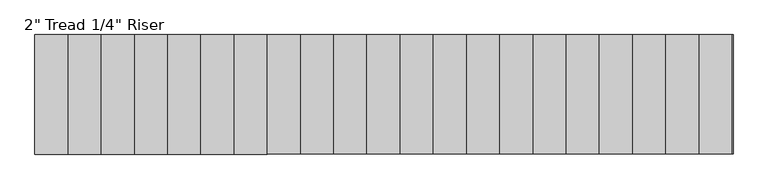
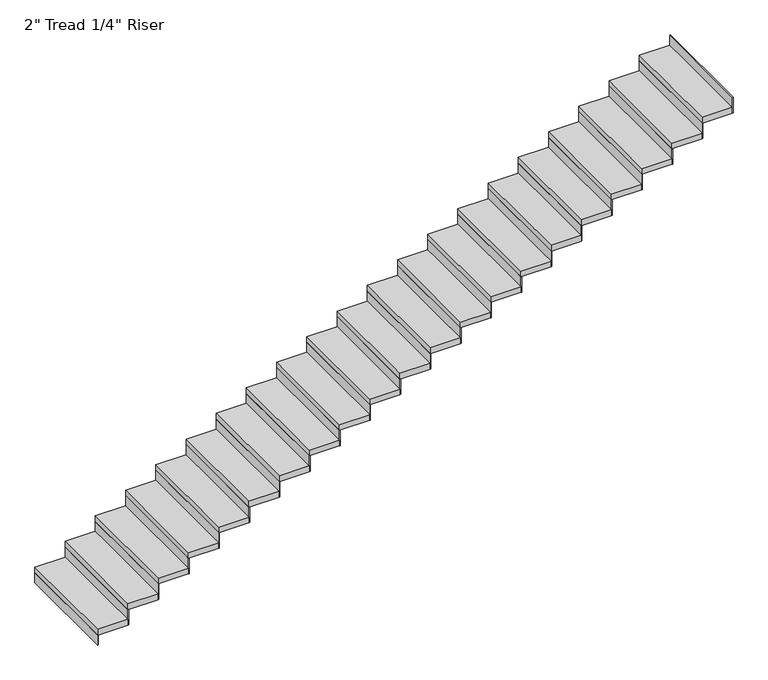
"""IFC4 building model written with IfcOpenShell, lengths in millimetres: stair flight geometry."""

from ifc_helpers import new_model, si_unit, frame, origin, origin_with_axes, place, context, project, spatial, polyline, outline, extrude, source, transform, mapped, element, save


def stair_flight_92419e0c(model_context):
    return source(origin(), model_context, "Body", "SweptSolid", [
        extrude(outline(polyline([(12112.6666841, 50604.9186802), (12106.3166841, 50604.9186802), (12106.3166841, 51519.3186802), (12112.6666841, 51519.3186802), (12112.6666841, 50604.9186802)])), origin_with_axes(), (0.0, 0.0, 1.0), 87.7454545),
        extrude(outline(polyline([(12360.3166841, 51519.3186802), (12360.3166841, 50604.9186802), (12106.3166841, 50604.9186802), (12106.3166841, 51519.3186802), (12360.3166841, 51519.3186802)])), frame((0.0, 0.0, 87.7454545), z_axis=(0.0, 0.0, 1.0), x_axis=(1.0, 0.0, 0.0)), (0.0, 0.0, 1.0), 50.8),
        extrude(outline(polyline([(12366.6666841, 50604.9186802), (12360.3166841, 50604.9186802), (12360.3166841, 51519.3186802), (12366.6666841, 51519.3186802), (12366.6666841, 50604.9186802)])), frame((0.0, 0.0, 87.7454545), z_axis=(0.0, 0.0, 1.0), x_axis=(1.0, 0.0, 0.0)), (0.0, 0.0, 1.0), 138.5454545),
        extrude(outline(polyline([(12614.3166841, 51519.3186802), (12614.3166841, 50604.9186802), (12360.3166841, 50604.9186802), (12360.3166841, 51519.3186802), (12614.3166841, 51519.3186802)])), frame((0.0, 0.0, 226.2909091), z_axis=(0.0, 0.0, 1.0), x_axis=(1.0, 0.0, 0.0)), (0.0, 0.0, 1.0), 50.8),
        extrude(outline(polyline([(12620.6666841, 50604.9186802), (12614.3166841, 50604.9186802), (12614.3166841, 51519.3186802), (12620.6666841, 51519.3186802), (12620.6666841, 50604.9186802)])), frame((0.0, 0.0, 226.2909091), z_axis=(0.0, 0.0, 1.0), x_axis=(1.0, 0.0, 0.0)), (0.0, 0.0, 1.0), 138.5454545),
        extrude(outline(polyline([(12868.3166841, 51519.3186802), (12868.3166841, 50604.9186802), (12614.3166841, 50604.9186802), (12614.3166841, 51519.3186802), (12868.3166841, 51519.3186802)])), frame((0.0, 0.0, 364.8363636), z_axis=(0.0, 0.0, 1.0), x_axis=(1.0, 0.0, 0.0)), (0.0, 0.0, 1.0), 50.8),
        extrude(outline(polyline([(12874.6666841, 50604.9186802), (12868.3166841, 50604.9186802), (12868.3166841, 51519.3186802), (12874.6666841, 51519.3186802), (12874.6666841, 50604.9186802)])), frame((0.0, 0.0, 364.8363636), z_axis=(0.0, 0.0, 1.0), x_axis=(1.0, 0.0, 0.0)), (0.0, 0.0, 1.0), 138.5454545),
        extrude(outline(polyline([(13122.3166841, 51519.3186802), (13122.3166841, 50604.9186802), (12868.3166841, 50604.9186802), (12868.3166841, 51519.3186802), (13122.3166841, 51519.3186802)])), frame((0.0, 0.0, 503.3818182), z_axis=(0.0, 0.0, 1.0), x_axis=(1.0, 0.0, 0.0)), (0.0, 0.0, 1.0), 50.8),
        extrude(outline(polyline([(13128.6666841, 50604.9186802), (13122.3166841, 50604.9186802), (13122.3166841, 51519.3186802), (13128.6666841, 51519.3186802), (13128.6666841, 50604.9186802)])), frame((0.0, 0.0, 503.3818182), z_axis=(0.0, 0.0, 1.0), x_axis=(1.0, 0.0, 0.0)), (0.0, 0.0, 1.0), 138.5454545),
        extrude(outline(polyline([(13376.3166841, 51519.3186802), (13376.3166841, 50604.9186802), (13122.3166841, 50604.9186802), (13122.3166841, 51519.3186802), (13376.3166841, 51519.3186802)])), frame((0.0, 0.0, 641.9272727), z_axis=(0.0, 0.0, 1.0), x_axis=(1.0, 0.0, 0.0)), (0.0, 0.0, 1.0), 50.8),
        extrude(outline(polyline([(13382.6666841, 50604.9186802), (13376.3166841, 50604.9186802), (13376.3166841, 51519.3186802), (13382.6666841, 51519.3186802), (13382.6666841, 50604.9186802)])), frame((0.0, 0.0, 641.9272727), z_axis=(0.0, 0.0, 1.0), x_axis=(1.0, 0.0, 0.0)), (0.0, 0.0, 1.0), 138.5454545),
        extrude(outline(polyline([(13630.3166841, 51519.3186802), (13630.3166841, 50604.9186802), (13376.3166841, 50604.9186802), (13376.3166841, 51519.3186802), (13630.3166841, 51519.3186802)])), frame((0.0, 0.0, 780.4727273), z_axis=(0.0, 0.0, 1.0), x_axis=(1.0, 0.0, 0.0)), (0.0, 0.0, 1.0), 50.8),
        extrude(outline(polyline([(13636.6666841, 50604.9186802), (13630.3166841, 50604.9186802), (13630.3166841, 51519.3186802), (13636.6666841, 51519.3186802), (13636.6666841, 50604.9186802)])), frame((0.0, 0.0, 780.4727273), z_axis=(0.0, 0.0, 1.0), x_axis=(1.0, 0.0, 0.0)), (0.0, 0.0, 1.0), 138.5454545),
        extrude(outline(polyline([(13884.3166841, 51519.3186802), (13884.3166841, 50604.9186802), (13630.3166841, 50604.9186802), (13630.3166841, 51519.3186802), (13884.3166841, 51519.3186802)])), frame((0.0, 0.0, 919.0181818), z_axis=(0.0, 0.0, 1.0), x_axis=(1.0, 0.0, 0.0)), (0.0, 0.0, 1.0), 50.8),
        extrude(outline(polyline([(13890.6666841, 50604.9186802), (13884.3166841, 50604.9186802), (13884.3166841, 51519.3186802), (13890.6666841, 51519.3186802), (13890.6666841, 50604.9186802)])), frame((0.0, 0.0, 919.0181818), z_axis=(0.0, 0.0, 1.0), x_axis=(1.0, 0.0, 0.0)), (0.0, 0.0, 1.0), 138.5454545),
        extrude(outline(polyline([(14138.3166841, 51519.3186802), (14138.3166841, 50604.9186802), (13884.3166841, 50604.9186802), (13884.3166841, 51519.3186802), (14138.3166841, 51519.3186802)])), frame((0.0, 0.0, 1057.5636364), z_axis=(0.0, 0.0, 1.0), x_axis=(1.0, 0.0, 0.0)), (0.0, 0.0, 1.0), 50.8),
        extrude(outline(polyline([(14144.6666841, 50604.9186802), (14138.3166841, 50604.9186802), (14138.3166841, 51519.3186802), (14144.6666841, 51519.3186802), (14144.6666841, 50604.9186802)])), frame((0.0, 0.0, 1057.5636364), z_axis=(0.0, 0.0, 1.0), x_axis=(1.0, 0.0, 0.0)), (0.0, 0.0, 1.0), 138.5454545),
        extrude(outline(polyline([(14392.3166841, 51519.3186802), (14392.3166841, 50604.9186802), (14138.3166841, 50604.9186802), (14138.3166841, 51519.3186802), (14392.3166841, 51519.3186802)])), frame((0.0, 0.0, 1196.1090909), z_axis=(0.0, 0.0, 1.0), x_axis=(1.0, 0.0, 0.0)), (0.0, 0.0, 1.0), 50.8),
        extrude(outline(polyline([(14398.6666841, 50604.9186802), (14392.3166841, 50604.9186802), (14392.3166841, 51519.3186802), (14398.6666841, 51519.3186802), (14398.6666841, 50604.9186802)])), frame((0.0, 0.0, 1196.1090909), z_axis=(0.0, 0.0, 1.0), x_axis=(1.0, 0.0, 0.0)), (0.0, 0.0, 1.0), 138.5454545),
        extrude(outline(polyline([(14646.3166841, 51519.3186802), (14646.3166841, 50604.9186802), (14392.3166841, 50604.9186802), (14392.3166841, 51519.3186802), (14646.3166841, 51519.3186802)])), frame((0.0, 0.0, 1334.6545455), z_axis=(0.0, 0.0, 1.0), x_axis=(1.0, 0.0, 0.0)), (0.0, 0.0, 1.0), 50.8),
        extrude(outline(polyline([(14652.6666841, 50604.9186802), (14646.3166841, 50604.9186802), (14646.3166841, 51519.3186802), (14652.6666841, 51519.3186802), (14652.6666841, 50604.9186802)])), frame((0.0, 0.0, 1334.6545455), z_axis=(0.0, 0.0, 1.0), x_axis=(1.0, 0.0, 0.0)), (0.0, 0.0, 1.0), 138.5454545),
        extrude(outline(polyline([(14900.3166841, 51519.3186802), (14900.3166841, 50604.9186802), (14646.3166841, 50604.9186802), (14646.3166841, 51519.3186802), (14900.3166841, 51519.3186802)])), frame((0.0, 0.0, 1473.2), z_axis=(0.0, 0.0, 1.0), x_axis=(1.0, 0.0, 0.0)), (0.0, 0.0, 1.0), 50.8),
        extrude(outline(polyline([(14906.6666841, 50604.9186802), (14900.3166841, 50604.9186802), (14900.3166841, 51519.3186802), (14906.6666841, 51519.3186802), (14906.6666841, 50604.9186802)])), frame((0.0, 0.0, 1473.2), z_axis=(0.0, 0.0, 1.0), x_axis=(1.0, 0.0, 0.0)), (0.0, 0.0, 1.0), 138.5454545),
        extrude(outline(polyline([(15154.3166841, 51519.3186802), (15154.3166841, 50604.9186802), (14900.3166841, 50604.9186802), (14900.3166841, 51519.3186802), (15154.3166841, 51519.3186802)])), frame((0.0, 0.0, 1611.7454545), z_axis=(0.0, 0.0, 1.0), x_axis=(1.0, 0.0, 0.0)), (0.0, 0.0, 1.0), 50.8),
        extrude(outline(polyline([(15160.6666841, 50604.9186802), (15154.3166841, 50604.9186802), (15154.3166841, 51519.3186802), (15160.6666841, 51519.3186802), (15160.6666841, 50604.9186802)])), frame((0.0, 0.0, 1611.7454545), z_axis=(0.0, 0.0, 1.0), x_axis=(1.0, 0.0, 0.0)), (0.0, 0.0, 1.0), 138.5454545),
        extrude(outline(polyline([(15408.3166841, 51519.3186802), (15408.3166841, 50604.9186802), (15154.3166841, 50604.9186802), (15154.3166841, 51519.3186802), (15408.3166841, 51519.3186802)])), frame((0.0, 0.0, 1750.2909091), z_axis=(0.0, 0.0, 1.0), x_axis=(1.0, 0.0, 0.0)), (0.0, 0.0, 1.0), 50.8),
        extrude(outline(polyline([(15414.6666841, 50604.9186802), (15408.3166841, 50604.9186802), (15408.3166841, 51519.3186802), (15414.6666841, 51519.3186802), (15414.6666841, 50604.9186802)])), frame((0.0, 0.0, 1750.2909091), z_axis=(0.0, 0.0, 1.0), x_axis=(1.0, 0.0, 0.0)), (0.0, 0.0, 1.0), 138.5454545),
        extrude(outline(polyline([(15662.3166841, 51519.3186802), (15662.3166841, 50604.9186802), (15408.3166841, 50604.9186802), (15408.3166841, 51519.3186802), (15662.3166841, 51519.3186802)])), frame((0.0, 0.0, 1888.8363636), z_axis=(0.0, 0.0, 1.0), x_axis=(1.0, 0.0, 0.0)), (0.0, 0.0, 1.0), 50.8),
        extrude(outline(polyline([(15668.6666841, 50604.9186802), (15662.3166841, 50604.9186802), (15662.3166841, 51519.3186802), (15668.6666841, 51519.3186802), (15668.6666841, 50604.9186802)])), frame((0.0, 0.0, 1888.8363636), z_axis=(0.0, 0.0, 1.0), x_axis=(1.0, 0.0, 0.0)), (0.0, 0.0, 1.0), 138.5454545),
        extrude(outline(polyline([(15916.3166841, 51519.3186802), (15916.3166841, 50604.9186802), (15662.3166841, 50604.9186802), (15662.3166841, 51519.3186802), (15916.3166841, 51519.3186802)])), frame((0.0, 0.0, 2027.3818182), z_axis=(0.0, 0.0, 1.0), x_axis=(1.0, 0.0, 0.0)), (0.0, 0.0, 1.0), 50.8),
        extrude(outline(polyline([(15922.6666841, 50604.9186802), (15916.3166841, 50604.9186802), (15916.3166841, 51519.3186802), (15922.6666841, 51519.3186802), (15922.6666841, 50604.9186802)])), frame((0.0, 0.0, 2027.3818182), z_axis=(0.0, 0.0, 1.0), x_axis=(1.0, 0.0, 0.0)), (0.0, 0.0, 1.0), 138.5454545),
        extrude(outline(polyline([(16170.3166841, 51519.3186802), (16170.3166841, 50604.9186802), (15916.3166841, 50604.9186802), (15916.3166841, 51519.3186802), (16170.3166841, 51519.3186802)])), frame((0.0, 0.0, 2165.9272727), z_axis=(0.0, 0.0, 1.0), x_axis=(1.0, 0.0, 0.0)), (0.0, 0.0, 1.0), 50.8),
        extrude(outline(polyline([(16176.6666841, 50604.9186802), (16170.3166841, 50604.9186802), (16170.3166841, 51519.3186802), (16176.6666841, 51519.3186802), (16176.6666841, 50604.9186802)])), frame((0.0, 0.0, 2165.9272727), z_axis=(0.0, 0.0, 1.0), x_axis=(1.0, 0.0, 0.0)), (0.0, 0.0, 1.0), 138.5454545),
        extrude(outline(polyline([(16424.3166841, 51519.3186802), (16424.3166841, 50604.9186802), (16170.3166841, 50604.9186802), (16170.3166841, 51519.3186802), (16424.3166841, 51519.3186802)])), frame((0.0, 0.0, 2304.4727273), z_axis=(0.0, 0.0, 1.0), x_axis=(1.0, 0.0, 0.0)), (0.0, 0.0, 1.0), 50.8),
        extrude(outline(polyline([(16430.6666841, 50604.9186802), (16424.3166841, 50604.9186802), (16424.3166841, 51519.3186802), (16430.6666841, 51519.3186802), (16430.6666841, 50604.9186802)])), frame((0.0, 0.0, 2304.4727273), z_axis=(0.0, 0.0, 1.0), x_axis=(1.0, 0.0, 0.0)), (0.0, 0.0, 1.0), 138.5454545),
        extrude(outline(polyline([(16678.3166841, 51519.3186802), (16678.3166841, 50604.9186802), (16424.3166841, 50604.9186802), (16424.3166841, 51519.3186802), (16678.3166841, 51519.3186802)])), frame((0.0, 0.0, 2443.0181818), z_axis=(0.0, 0.0, 1.0), x_axis=(1.0, 0.0, 0.0)), (0.0, 0.0, 1.0), 50.8),
        extrude(outline(polyline([(16684.6666841, 50604.9186802), (16678.3166841, 50604.9186802), (16678.3166841, 51519.3186802), (16684.6666841, 51519.3186802), (16684.6666841, 50604.9186802)])), frame((0.0, 0.0, 2443.0181818), z_axis=(0.0, 0.0, 1.0), x_axis=(1.0, 0.0, 0.0)), (0.0, 0.0, 1.0), 138.5454545),
        extrude(outline(polyline([(16932.3166841, 51519.3186802), (16932.3166841, 50604.9186802), (16678.3166841, 50604.9186802), (16678.3166841, 51519.3186802), (16932.3166841, 51519.3186802)])), frame((0.0, 0.0, 2581.5636364), z_axis=(0.0, 0.0, 1.0), x_axis=(1.0, 0.0, 0.0)), (0.0, 0.0, 1.0), 50.8),
        extrude(outline(polyline([(16938.6666841, 50604.9186802), (16932.3166841, 50604.9186802), (16932.3166841, 51519.3186802), (16938.6666841, 51519.3186802), (16938.6666841, 50604.9186802)])), frame((0.0, 0.0, 2581.5636364), z_axis=(0.0, 0.0, 1.0), x_axis=(1.0, 0.0, 0.0)), (0.0, 0.0, 1.0), 138.5454545),
        extrude(outline(polyline([(17186.3166841, 51519.3186802), (17186.3166841, 50604.9186802), (16932.3166841, 50604.9186802), (16932.3166841, 51519.3186802), (17186.3166841, 51519.3186802)])), frame((0.0, 0.0, 2720.1090909), z_axis=(0.0, 0.0, 1.0), x_axis=(1.0, 0.0, 0.0)), (0.0, 0.0, 1.0), 50.8),
        extrude(outline(polyline([(17192.6666841, 50604.9186802), (17186.3166841, 50604.9186802), (17186.3166841, 51519.3186802), (17192.6666841, 51519.3186802), (17192.6666841, 50604.9186802)])), frame((0.0, 0.0, 2720.1090909), z_axis=(0.0, 0.0, 1.0), x_axis=(1.0, 0.0, 0.0)), (0.0, 0.0, 1.0), 138.5454545),
        extrude(outline(polyline([(17446.6666841, 50604.9186802), (17440.3166841, 50604.9186802), (17440.3166841, 51519.3186802), (17446.6666841, 51519.3186802), (17446.6666841, 50604.9186802)])), frame((0.0, 0.0, 2858.6545455), z_axis=(0.0, 0.0, 1.0), x_axis=(1.0, 0.0, 0.0)), (0.0, 0.0, 1.0), 138.5454545),
        extrude(outline(polyline([(17440.3166841, 51519.3186802), (17440.3166841, 50604.9186802), (17186.3166841, 50604.9186802), (17186.3166841, 51519.3186802), (17440.3166841, 51519.3186802)])), frame((0.0, 0.0, 2858.6545455), z_axis=(0.0, 0.0, 1.0), x_axis=(1.0, 0.0, 0.0)), (0.0, 0.0, 1.0), 50.8),
    ])


if __name__ == "__main__":
    model = new_model("IFC4")
    model_context = context("Model", 3, world=origin())
    ifc_project = project(units=[si_unit("LENGTHUNIT", "METRE", prefix="MILLI")], contexts=[model_context])
    site = spatial("IfcSite", under=ifc_project)
    building = spatial("IfcBuilding", under=site)
    placement = place(None, origin())
    stair_flight_shape = stair_flight_92419e0c(model_context)
    element("IfcStairFlight", 1, ObjectType="2\" Tread 1/4\" Riser", at=placement, inside=building, context=model_context, shape_type="MappedRepresentation", body=[
        mapped(stair_flight_shape, transform((0.0, 0.0, 0.0), x_axis=(1.0, 0.0, 0.0), y_axis=(0.0, 1.0, 0.0), z_axis=(0.0, 0.0, 1.0))),
    ])
    save(model, "model.ifc")
